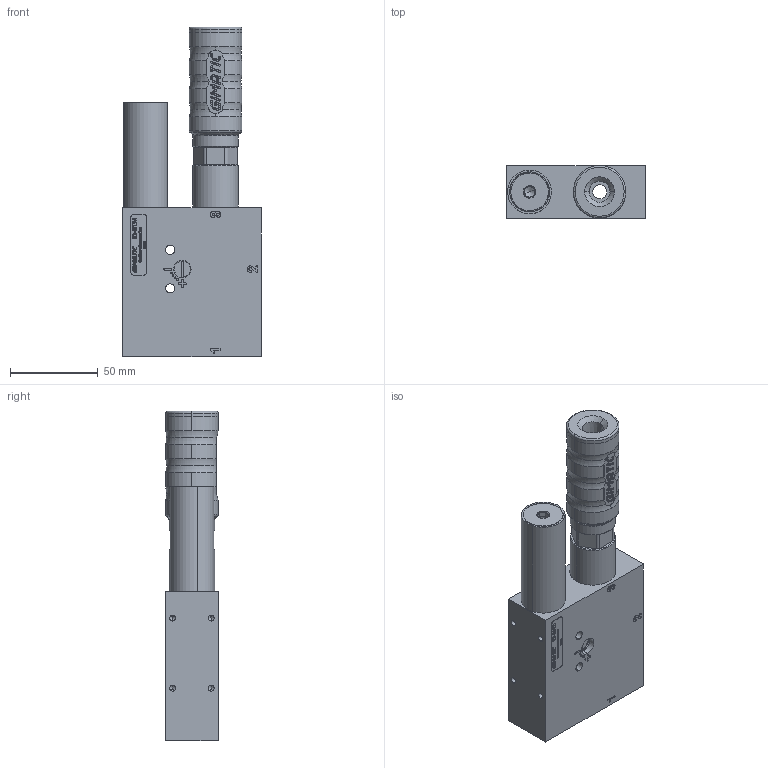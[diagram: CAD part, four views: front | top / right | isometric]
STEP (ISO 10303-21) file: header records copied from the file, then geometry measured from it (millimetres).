
FILE_DESCRIPTION (( 'STEP AP203' ), '1' );
FILE_NAME ('3030191.STEP', '2022-04-08T08:04:20', ( '' ), ( '' ), 'SwSTEP 2.0', 'SolidWorks 2021', '' );
FILE_SCHEMA (( 'CONFIG_CONTROL_DESIGN' ));
Length unit declared in the file: millimetre
Products named in the file (2): Copia di 3030191-AS01^3030191; 3030191
Assembly tree (1 placements, depth 2):
  3030191
    Copia di 3030191-AS01^3030191
Bounding box: 79 x 30.1 x 188.1 mm (x, y, z)
Volume: 244549 mm3; surface area: 79550.4 mm2
Topology: 20 solids, 20 shells, 1181 faces, 2711 edges, 1745 vertices
Faces by surface type: plane 459, cylinder 426, bspline 166, cone 100, torus 30
Entity records: 42070 total; most frequent: CARTESIAN_POINT 15453, DIRECTION 5384, ORIENTED_EDGE 5378, EDGE_CURVE 2689, AXIS2_PLACEMENT_3D 2032, VERTEX_POINT 1745, EDGE_LOOP 1416, LINE 1320
